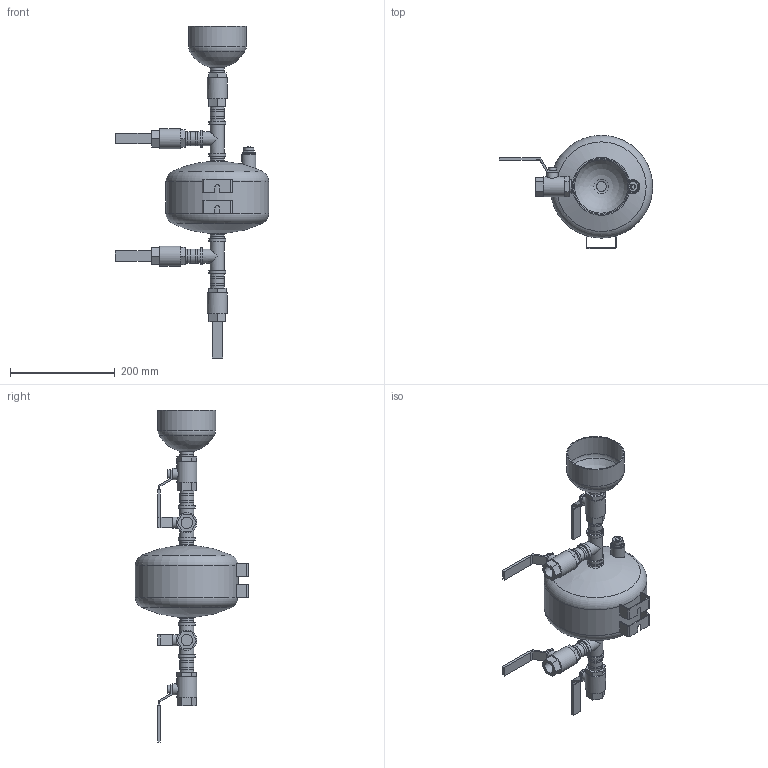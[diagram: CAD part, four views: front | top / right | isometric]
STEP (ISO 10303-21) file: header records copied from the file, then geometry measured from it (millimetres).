
FILE_DESCRIPTION(/* description */ (''),/* implementation_level */ '2;1');
FILE_NAME(/* name */ '\\DATASERVER\data\Flamco\3D-Modellen\Inventor\Dosing Pot\2021\2021 Dosing Pot 3.5 L\2021_Dosing Pot 3-5 L.stp',/* time_stamp */ '2021-02-17T10:39:02+01:00',/* author */ ('kasius'),/* organization */ (''),/* preprocessor_version */ 'ST-DEVELOPER v17',/* originating_system */ 'Autodesk Inventor 2018',/* authorisation */ '');
FILE_SCHEMA (('AUTOMOTIVE_DESIGN { 1 0 10303 214 3 1 1 }'));
Length unit declared in the file: millimetre
Products named in the file (1): 2021_Dosing Pot 3-5 L
Bounding box: 292.01 x 215.93 x 633.27 mm (x, y, z)
Volume: 3954362.1 mm3; surface area: 279567.9 mm2
Topology: 1 solids, 1 shells, 309 faces, 801 edges, 547 vertices
Faces by surface type: plane 223, cylinder 65, cone 12, torus 5, sphere 4
Full cylindrical faces by diameter (mm): 9.8 x1, 15.875 x8, 19 x1, 19.3 x1, 21.514 x4, 21.749 x3, 23.8 x1, 25.8 x3, 26 x3, 26.5 x1, 26.753 x2, 26.754 x6, 27 x4, 27.2 x4, 32.64 x6, 38.495 x4, 106 x1, 110 x1, 196 x1
Entity records: 9898 total; most frequent: CARTESIAN_POINT 1888, DIRECTION 1711, ORIENTED_EDGE 1602, EDGE_CURVE 801, AXIS2_PLACEMENT_3D 618, VERTEX_POINT 547, LINE 475, VECTOR 475
